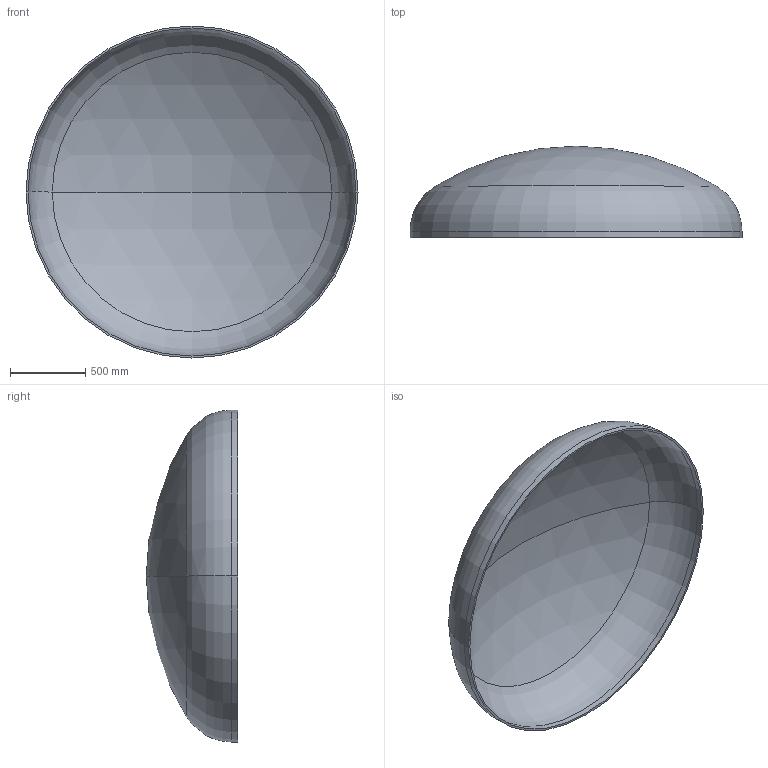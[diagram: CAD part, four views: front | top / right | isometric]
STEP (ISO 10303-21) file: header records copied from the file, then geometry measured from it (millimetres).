
FILE_DESCRIPTION (( 'STEP AP203' ), '1' );
FILE_NAME ('DIN 28013 Korbbogenform_-_Boden DIN 28013 - 2200 x 40 - I - s=13.step', '2016-07-01T14:20:03', ( '' ), ( '' ), 'SwSTEP 2.0', 'SolidWorks 2013', '' );
FILE_SCHEMA (( 'CONFIG_CONTROL_DESIGN' ));
Length unit declared in the file: millimetre
Products named in the file (1): DIN 28013 Korbbogenform_-_Boden DIN 28013 - 2200 x 40 - I - s=13
Bounding box: 2200 x 605.36 x 2200 mm (x, y, z)
Volume: 71530835.6 mm3; surface area: 11094412.2 mm2
Topology: 1 solids, 1 shells, 13 faces, 24 edges, 14 vertices
Faces by surface type: torus 4, cylinder 4, sphere 4, plane 1
Entity records: 407 total; most frequent: DIRECTION 72, CARTESIAN_POINT 52, ORIENTED_EDGE 48, AXIS2_PLACEMENT_3D 34, EDGE_CURVE 24, CIRCLE 20, EDGE_LOOP 14, VERTEX_POINT 14
